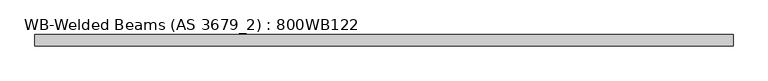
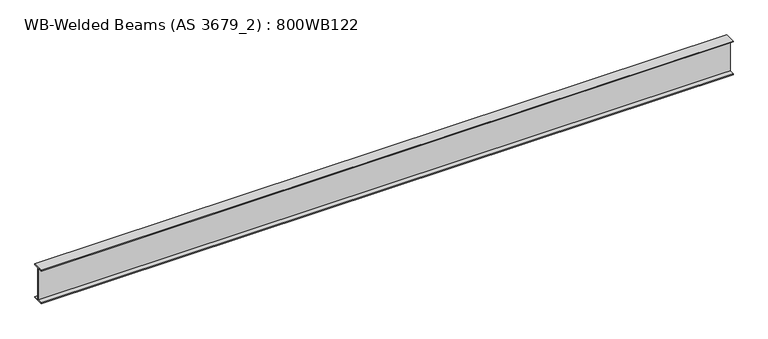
"""IFC4 building model written with IfcOpenShell, lengths in millimetres: beam geometry, WB-Welded Beams (AS 3679_2) : 800WB122."""

from ifc_helpers import new_model, si_unit, frame, origin, place, context, project, spatial, polyline, outline, extrude, source, transform, mapped, element, save


def wb_welded_beams_as_3679_2_800wb122_c41ef6cc(model_context):
    return source(origin(), model_context, "Body", "SweptSolid", [
        extrude(outline(polyline([(125.0, -380.0), (125.0, -396.0), (-125.0, -396.0), (-125.0, -380.0), (-5.0, -380.0), (-5.0, 380.0), (-125.0, 380.0), (-125.0, 396.0), (125.0, 396.0), (125.0, 380.0), (5.0, 380.0), (5.0, -380.0), (125.0, -380.0)])), frame((-7787.2, 0.0, 0.0), z_axis=(1.0, 0.0, 0.0), x_axis=(0.0, 1.0, 0.0)), (0.0, 0.0, 1.0), 15574.4),
    ])


if __name__ == "__main__":
    model = new_model("IFC4")
    model_context = context("Model", 3, world=origin())
    ifc_project = project(units=[si_unit("LENGTHUNIT", "METRE", prefix="MILLI")], contexts=[model_context])
    site = spatial("IfcSite", under=ifc_project)
    building = spatial("IfcBuilding", under=site)
    placement = place(None, origin())
    wb_welded_beams_as_3679_2_800wb122_shape = wb_welded_beams_as_3679_2_800wb122_c41ef6cc(model_context)
    element("IfcBeam", 1, ObjectType="WB-Welded Beams (AS 3679_2) : 800WB122", at=placement, inside=building, context=model_context, shape_type="MappedRepresentation", body=[
        mapped(wb_welded_beams_as_3679_2_800wb122_shape, transform((0.0, 0.0, 0.0), x_axis=(1.0, 0.0, 0.0), y_axis=(0.0, 1.0, 0.0), z_axis=(0.0, 0.0, 1.0))),
    ])
    save(model, "model.ifc")
